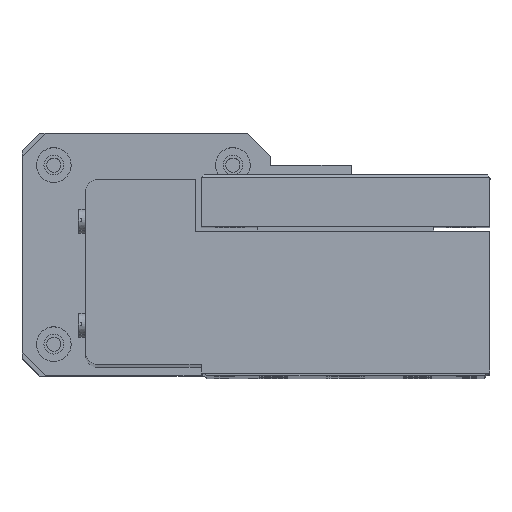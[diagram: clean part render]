
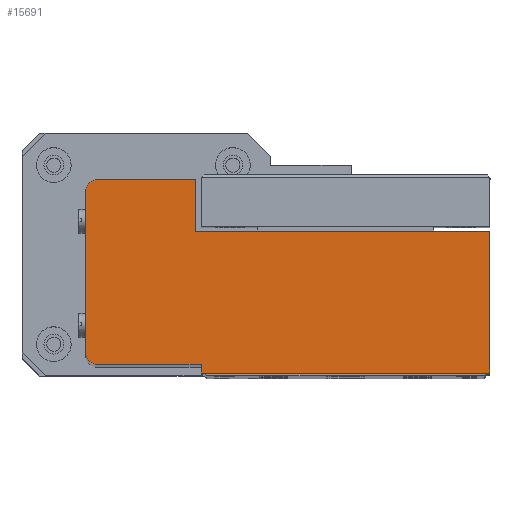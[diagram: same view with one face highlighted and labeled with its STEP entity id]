
A CAD part, top view. The second image highlights one B-rep face of the part: STEP entity #15691.
In plain terms, the highlighted planar face has unit normal (0, 0, 1).
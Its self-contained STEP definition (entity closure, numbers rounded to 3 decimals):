
#10965 = VERTEX_POINT ( 'NONE', #50376 ) ;
#11010 = VERTEX_POINT ( 'NONE', #50503 ) ;
#11015 = EDGE_CURVE ( 'NONE', #11040, #11010, #50497, .T. ) ;
#11020 = EDGE_CURVE ( 'NONE', #10965, #11040, #50485, .T. ) ;
#11040 = VERTEX_POINT ( 'NONE', #50530 ) ;
#11073 = VERTEX_POINT ( 'NONE', #50549 ) ;
#11078 = EDGE_CURVE ( 'NONE', #11010, #11073, #50544, .T. ) ;
#11603 = EDGE_CURVE ( 'NONE', #11073, #11604, #51329, .T. ) ;
#11604 = VERTEX_POINT ( 'NONE', #51325 ) ;
#11639 = VERTEX_POINT ( 'NONE', #51410 ) ;
#11696 = EDGE_CURVE ( 'NONE', #11639, #10965, #51447, .T. ) ;
#15608 = EDGE_LOOP ( 'NONE', ( #15610, #15613, #15616, #15618, #15621, #15734, #15656, #15662, #15668, #15674 ) ) ;
#15610 = ORIENTED_EDGE ( 'NONE', *, *, #11603, .F. ) ;
#15613 = ORIENTED_EDGE ( 'NONE', *, *, #11078, .F. ) ;
#15616 = ORIENTED_EDGE ( 'NONE', *, *, #11015, .F. ) ;
#15618 = ORIENTED_EDGE ( 'NONE', *, *, #11020, .F. ) ;
#15621 = ORIENTED_EDGE ( 'NONE', *, *, #11696, .F. ) ;
#15653 = EDGE_CURVE ( 'NONE', #15654, #11639, #60551, .T. ) ;
#15654 = VERTEX_POINT ( 'NONE', #60547 ) ;
#15656 = ORIENTED_EDGE ( 'NONE', *, *, #15659, .F. ) ;
#15659 = EDGE_CURVE ( 'NONE', #15660, #15654, #60541, .T. ) ;
#15660 = VERTEX_POINT ( 'NONE', #60537 ) ;
#15662 = ORIENTED_EDGE ( 'NONE', *, *, #15664, .F. ) ;
#15664 = EDGE_CURVE ( 'NONE', #15666, #15660, #60595, .T. ) ;
#15666 = VERTEX_POINT ( 'NONE', #60585 ) ;
#15668 = ORIENTED_EDGE ( 'NONE', *, *, #15671, .F. ) ;
#15671 = EDGE_CURVE ( 'NONE', #15686, #15666, #60579, .T. ) ;
#15674 = ORIENTED_EDGE ( 'NONE', *, *, #15684, .F. ) ;
#15684 = EDGE_CURVE ( 'NONE', #11604, #15686, #60619, .T. ) ;
#15686 = VERTEX_POINT ( 'NONE', #60614 ) ;
#15691 = ADVANCED_FACE ( 'NONE', ( #60604 ), #60603, .F. ) ;
#15734 = ORIENTED_EDGE ( 'NONE', *, *, #15653, .F. ) ;
#50376 = CARTESIAN_POINT ( 'NONE',  ( -20., -1.27, 339.071 ) ) ;
#50482 = DIRECTION ( 'NONE',  ( 0., 1., 0. ) ) ;
#50483 = VECTOR ( 'NONE', #50482, 1000. ) ;
#50484 = CARTESIAN_POINT ( 'NONE',  ( -20., 9.884, 339.071 ) ) ;
#50485 = LINE ( 'NONE', #50484, #50483 ) ;
#50493 = DIRECTION ( 'NONE',  ( 0., 1., 0. ) ) ;
#50494 = DIRECTION ( 'NONE',  ( 0., 0., -1. ) ) ;
#50495 = CARTESIAN_POINT ( 'NONE',  ( -18., 26.73, 339.071 ) ) ;
#50496 = AXIS2_PLACEMENT_3D ( 'NONE', #50495, #50494, #50493 ) ;
#50497 = CIRCLE ( 'NONE', #50496, 2. ) ;
#50503 = CARTESIAN_POINT ( 'NONE',  ( -18., 28.73, 339.071 ) ) ;
#50530 = CARTESIAN_POINT ( 'NONE',  ( -20., 26.73, 339.071 ) ) ;
#50541 = DIRECTION ( 'NONE',  ( 1., 0., 0. ) ) ;
#50542 = VECTOR ( 'NONE', #50541, 1000. ) ;
#50543 = CARTESIAN_POINT ( 'NONE',  ( 13.207, 28.73, 339.071 ) ) ;
#50544 = LINE ( 'NONE', #50543, #50542 ) ;
#50549 = CARTESIAN_POINT ( 'NONE',  ( -1., 28.73, 339.071 ) ) ;
#51325 = CARTESIAN_POINT ( 'NONE',  ( -1., 19.73, 339.071 ) ) ;
#51326 = DIRECTION ( 'NONE',  ( 0., -1., 0. ) ) ;
#51327 = VECTOR ( 'NONE', #51326, 1000. ) ;
#51328 = CARTESIAN_POINT ( 'NONE',  ( -1., 9.884, 339.071 ) ) ;
#51329 = LINE ( 'NONE', #51328, #51327 ) ;
#51410 = CARTESIAN_POINT ( 'NONE',  ( -18., -3.27, 339.071 ) ) ;
#51447 = CIRCLE ( 'NONE', #51509, 2. ) ;
#51506 = DIRECTION ( 'NONE',  ( 0., 1., 0. ) ) ;
#51507 = DIRECTION ( 'NONE',  ( 0., 0., -1. ) ) ;
#51508 = CARTESIAN_POINT ( 'NONE',  ( -18., -1.27, 339.071 ) ) ;
#51509 = AXIS2_PLACEMENT_3D ( 'NONE', #51508, #51507, #51506 ) ;
#60537 = CARTESIAN_POINT ( 'NONE',  ( 0., -4.77, 339.071 ) ) ;
#60538 = DIRECTION ( 'NONE',  ( 0., 1., 0. ) ) ;
#60539 = VECTOR ( 'NONE', #60538, 1000. ) ;
#60540 = CARTESIAN_POINT ( 'NONE',  ( 0., 9.884, 339.071 ) ) ;
#60541 = LINE ( 'NONE', #60540, #60539 ) ;
#60547 = CARTESIAN_POINT ( 'NONE',  ( 0., -3.27, 339.071 ) ) ;
#60548 = DIRECTION ( 'NONE',  ( -1., 0., 0. ) ) ;
#60549 = VECTOR ( 'NONE', #60548, 1000. ) ;
#60550 = CARTESIAN_POINT ( 'NONE',  ( -18., -3.27, 339.071 ) ) ;
#60551 = LINE ( 'NONE', #60550, #60549 ) ;
#60576 = DIRECTION ( 'NONE',  ( 0., -1., 0. ) ) ;
#60577 = VECTOR ( 'NONE', #60576, 1000. ) ;
#60578 = CARTESIAN_POINT ( 'NONE',  ( 50., -4.77, 339.071 ) ) ;
#60579 = LINE ( 'NONE', #60578, #60577 ) ;
#60585 = CARTESIAN_POINT ( 'NONE',  ( 50., -4.77, 339.071 ) ) ;
#60592 = DIRECTION ( 'NONE',  ( -1., 0., 0. ) ) ;
#60593 = VECTOR ( 'NONE', #60592, 1000. ) ;
#60594 = CARTESIAN_POINT ( 'NONE',  ( 0., -4.77, 339.071 ) ) ;
#60595 = LINE ( 'NONE', #60594, #60593 ) ;
#60599 = DIRECTION ( 'NONE',  ( 0., 1., 0. ) ) ;
#60600 = DIRECTION ( 'NONE',  ( 0., 0., -1. ) ) ;
#60601 = CARTESIAN_POINT ( 'NONE',  ( 13.207, 9.884, 339.071 ) ) ;
#60602 = AXIS2_PLACEMENT_3D ( 'NONE', #60601, #60600, #60599 ) ;
#60603 = PLANE ( 'NONE',  #60602 ) ;
#60604 = FACE_OUTER_BOUND ( 'NONE', #15608, .T. ) ;
#60614 = CARTESIAN_POINT ( 'NONE',  ( 50., 19.73, 339.071 ) ) ;
#60616 = DIRECTION ( 'NONE',  ( 1., 0., 0. ) ) ;
#60617 = VECTOR ( 'NONE', #60616, 1000. ) ;
#60618 = CARTESIAN_POINT ( 'NONE',  ( 13.207, 19.73, 339.071 ) ) ;
#60619 = LINE ( 'NONE', #60618, #60617 ) ;
